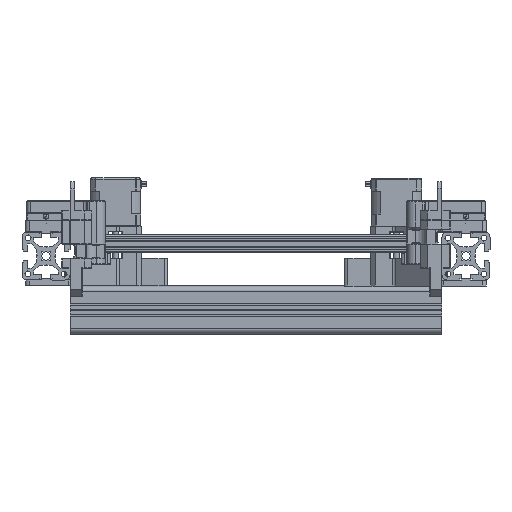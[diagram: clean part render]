
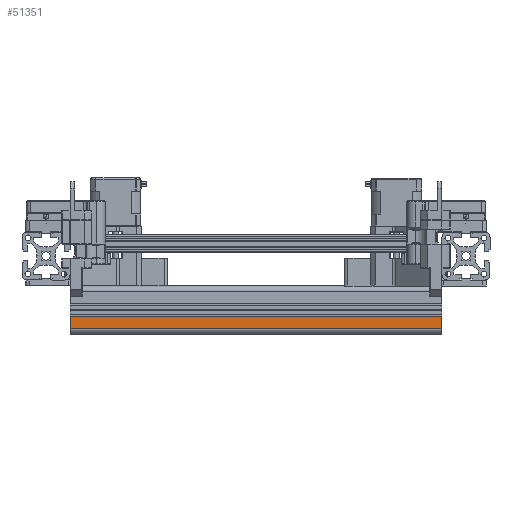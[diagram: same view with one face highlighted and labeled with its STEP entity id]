
A CAD part, front view. The second image highlights one B-rep face of the part: STEP entity #51351.
In plain terms, the highlighted planar face has unit normal (0, -1, 0).
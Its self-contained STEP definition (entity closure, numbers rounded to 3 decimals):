
#6299=LINE('',#85696,#11595);
#6301=LINE('',#85700,#11597);
#6302=LINE('',#85702,#11598);
#6303=LINE('',#85704,#11599);
#11595=VECTOR('',#70444,1000.);
#11597=VECTOR('',#70448,1000.);
#11598=VECTOR('',#70449,1000.);
#11599=VECTOR('',#70450,1000.);
#24300=ORIENTED_EDGE('',*,*,#32472,.T.);
#24301=ORIENTED_EDGE('',*,*,#32473,.F.);
#24302=ORIENTED_EDGE('',*,*,#32474,.F.);
#24303=ORIENTED_EDGE('',*,*,#32470,.T.);
#32470=EDGE_CURVE('',#37432,#37431,#6299,.T.);
#32472=EDGE_CURVE('',#37431,#37433,#6301,.T.);
#32473=EDGE_CURVE('',#37434,#37433,#6302,.T.);
#32474=EDGE_CURVE('',#37432,#37434,#6303,.T.);
#37431=VERTEX_POINT('',#85695);
#37432=VERTEX_POINT('',#85697);
#37433=VERTEX_POINT('',#85701);
#37434=VERTEX_POINT('',#85703);
#42791=EDGE_LOOP('',(#24300,#24301,#24302,#24303));
#46455=FACE_BOUND('',#42791,.T.);
#48516=PLANE('',#57332);
#51351=ADVANCED_FACE('',(#46455),#48516,.F.);
#57332=AXIS2_PLACEMENT_3D('',#85699,#70446,#70447);
#70444=DIRECTION('',(0.,0.,-1.));
#70446=DIRECTION('',(0.,1.,0.));
#70447=DIRECTION('',(0.,0.,1.));
#70448=DIRECTION('',(1.,0.,0.));
#70449=DIRECTION('',(0.,0.,-1.));
#70450=DIRECTION('',(1.,0.,0.));
#85695=CARTESIAN_POINT('',(105.1,-20.,0.));
#85696=CARTESIAN_POINT('',(105.1,-20.,310.));
#85697=CARTESIAN_POINT('',(105.1,-20.,310.));
#85699=CARTESIAN_POINT('',(115.2,-20.,310.));
#85700=CARTESIAN_POINT('',(115.2,-20.,0.));
#85701=CARTESIAN_POINT('',(115.5,-20.,0.));
#85702=CARTESIAN_POINT('',(115.5,-20.,310.));
#85703=CARTESIAN_POINT('',(115.5,-20.,310.));
#85704=CARTESIAN_POINT('',(115.2,-20.,310.));
